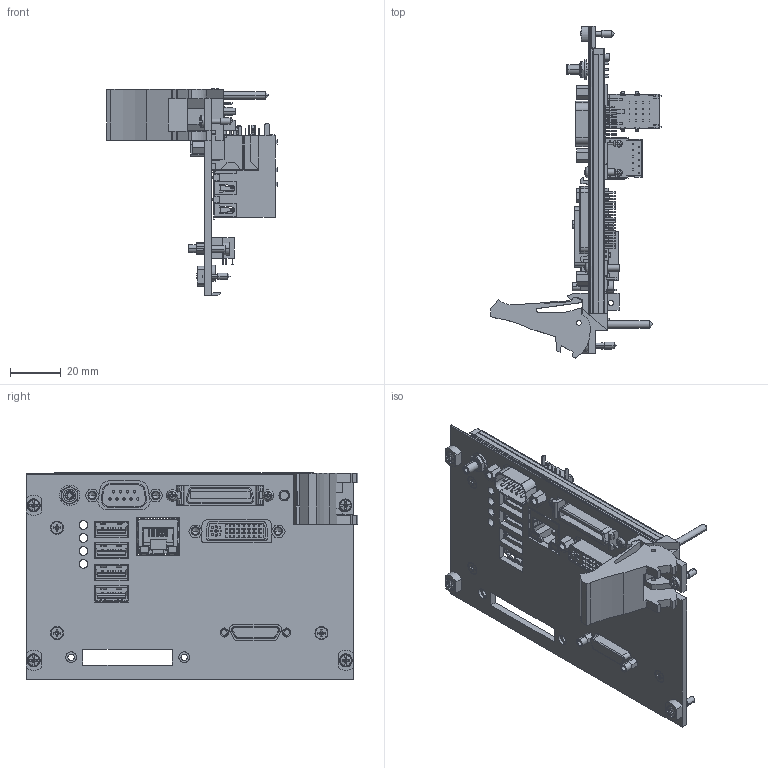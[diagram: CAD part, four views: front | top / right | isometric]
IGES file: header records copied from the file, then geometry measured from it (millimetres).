
Start section:  PTC IGES file: cu_pxie-8108.igs
Global section: file name: cu_pxie-8108.igs; native system: Creo Parametric by Parametric Technology Corporation; preprocessor: 2014000; author: gvillanu; organization: Unknown; date: 20141001.124531; units: inch
Bounding box: 66.93 x 130.52 x 81.27 mm (x, y, z)
Surface area: 49711.8 mm2 (no closed solid volume)
Topology: 0 solids, 0 shells, 2614 faces, 13925 edges, 13894 vertices
Faces by surface type: bspline 1835, revolution 765, extrusion 14
